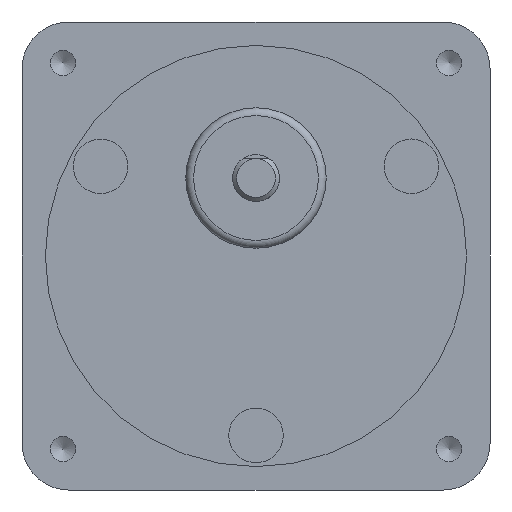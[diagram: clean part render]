
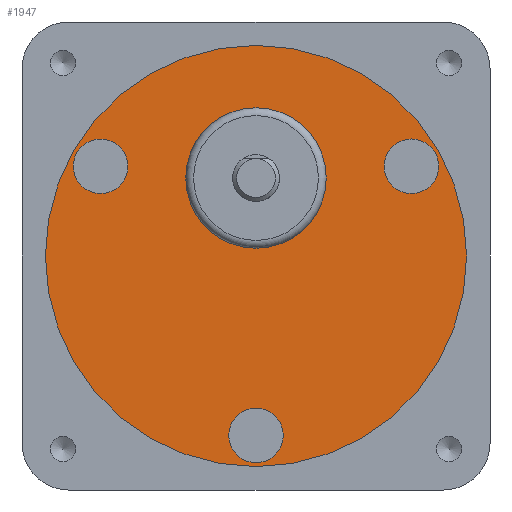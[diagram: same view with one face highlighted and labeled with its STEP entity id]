
A CAD part, front view. The second image highlights one B-rep face of the part: STEP entity #1947.
In plain terms, the highlighted planar face has unit normal (0, -1, 0).
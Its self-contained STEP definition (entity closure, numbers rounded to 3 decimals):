
#819=CARTESIAN_POINT('',(18.169,-3.5,14.531));
#820=VERTEX_POINT('',#819);
#821=CARTESIAN_POINT('',(19.919,-3.5,11.5));
#822=DIRECTION('',(0.0,1.0,0.0));
#823=DIRECTION('',(0.5,0.0,-0.866));
#824=AXIS2_PLACEMENT_3D('',#821,#822,#823);
#825=CIRCLE('',#824,3.5);
#826=EDGE_CURVE('',#820,#820,#825,.T.);
#856=CARTESIAN_POINT('',(-21.669,-3.5,8.469));
#857=VERTEX_POINT('',#856);
#858=CARTESIAN_POINT('',(-19.919,-3.5,11.5));
#859=DIRECTION('',(0.0,1.,0.0));
#860=DIRECTION('',(0.5,0.0,0.866));
#861=AXIS2_PLACEMENT_3D('',#858,#859,#860);
#862=CIRCLE('',#861,3.5);
#863=EDGE_CURVE('',#857,#857,#862,.T.);
#893=CARTESIAN_POINT('',(3.5,-3.5,-23.));
#894=VERTEX_POINT('',#893);
#895=CARTESIAN_POINT('',(0.,-3.5,-23.));
#896=DIRECTION('',(0.0,1.0,0.0));
#897=DIRECTION('',(-1.0,0.0,0.0));
#898=AXIS2_PLACEMENT_3D('',#895,#896,#897);
#899=CIRCLE('',#898,3.5);
#900=EDGE_CURVE('',#894,#894,#899,.T.);
#1896=CARTESIAN_POINT('',(27.,-3.5,0.));
#1897=VERTEX_POINT('',#1896);
#1898=CARTESIAN_POINT('',(0.,-3.5,0.));
#1899=DIRECTION('',(0.0,-1.0,0.0));
#1900=DIRECTION('',(-1.0,0.0,0.0));
#1901=AXIS2_PLACEMENT_3D('',#1898,#1899,#1900);
#1902=CIRCLE('',#1901,27.0);
#1903=EDGE_CURVE('',#1897,#1897,#1902,.T.);
#1919=CARTESIAN_POINT('',(0.,-3.5,0.));
#1920=DIRECTION('',(0.0,1.0,0.0));
#1921=DIRECTION('',(0.0,0.0,1.0));
#1922=AXIS2_PLACEMENT_3D('',#1919,#1920,#1921);
#1923=PLANE('',#1922);
#1924=ORIENTED_EDGE('',*,*,#1903,.T.);
#1925=EDGE_LOOP('',(#1924));
#1926=FACE_OUTER_BOUND('',#1925,.T.);
#1927=ORIENTED_EDGE('',*,*,#826,.T.);
#1928=EDGE_LOOP('',(#1927));
#1929=FACE_BOUND('',#1928,.T.);
#1930=ORIENTED_EDGE('',*,*,#863,.T.);
#1931=EDGE_LOOP('',(#1930));
#1932=FACE_BOUND('',#1931,.T.);
#1933=ORIENTED_EDGE('',*,*,#900,.T.);
#1934=EDGE_LOOP('',(#1933));
#1935=FACE_BOUND('',#1934,.T.);
#1936=CARTESIAN_POINT('',(9.,-3.5,10.));
#1937=VERTEX_POINT('',#1936);
#1938=CARTESIAN_POINT('',(0.,-3.5,10.));
#1939=DIRECTION('',(0.0,-1.0,0.0));
#1940=DIRECTION('',(-1.0,0.0,0.0));
#1941=AXIS2_PLACEMENT_3D('',#1938,#1939,#1940);
#1942=CIRCLE('',#1941,9.0);
#1943=EDGE_CURVE('',#1937,#1937,#1942,.T.);
#1944=ORIENTED_EDGE('',*,*,#1943,.F.);
#1945=EDGE_LOOP('',(#1944));
#1946=FACE_BOUND('',#1945,.T.);
#1947=ADVANCED_FACE('',(#1926,#1929,#1932,#1935,#1946),#1923,.F.);
